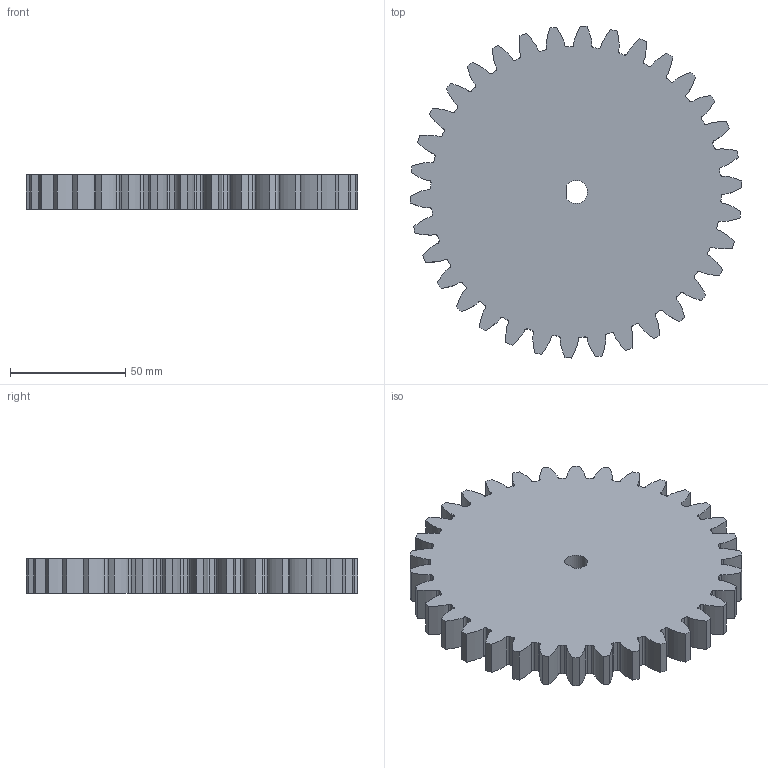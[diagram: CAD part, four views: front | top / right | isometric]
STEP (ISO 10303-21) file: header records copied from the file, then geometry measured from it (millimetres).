
FILE_DESCRIPTION (( 'STEP AP203' ), '1' );
FILE_NAME ('Pignon denture droite m=4 Z=34.STEP', '2025-09-18T12:05:53', ( '' ), ( '' ), 'SwSTEP 2.0', 'SolidWorks 2019', '' );
FILE_SCHEMA (( 'CONFIG_CONTROL_DESIGN' ));
Length unit declared in the file: millimetre
Products named in the file (1): Pignon denture droite m=4 Z=34
Bounding box: 143.95 x 143.95 x 15 mm (x, y, z)
Volume: 214601 mm3; surface area: 41899.3 mm2
Topology: 1 solids, 1 shells, 224 faces, 666 edges, 444 vertices
Faces by surface type: cylinder 153, bspline 68, plane 3
Entity records: 8417 total; most frequent: CARTESIAN_POINT 2491, ORIENTED_EDGE 1332, DIRECTION 1150, EDGE_CURVE 666, AXIS2_PLACEMENT_3D 463, VERTEX_POINT 444, CIRCLE 306, EDGE_LOOP 226
